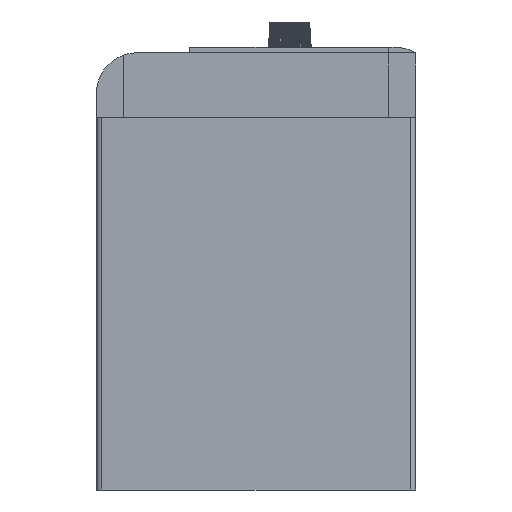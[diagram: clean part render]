
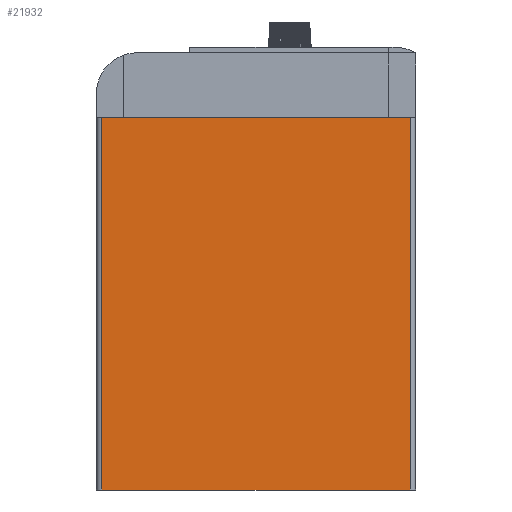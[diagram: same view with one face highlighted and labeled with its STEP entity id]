
A CAD part, front view. The second image highlights one B-rep face of the part: STEP entity #21932.
In plain terms, the highlighted planar face has unit normal (0, -1, 0).
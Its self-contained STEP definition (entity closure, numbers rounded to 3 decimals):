
#1081=PLANE('',#23194);
#1946=FACE_OUTER_BOUND('',#3189,.T.);
#3189=EDGE_LOOP('',(#15207,#15208,#15209,#15210));
#4555=LINE('',#29847,#6928);
#4556=LINE('',#29850,#6929);
#4557=LINE('',#29852,#6930);
#4558=LINE('',#29853,#6931);
#6928=VECTOR('',#24624,10.);
#6929=VECTOR('',#24627,10.);
#6930=VECTOR('',#24628,10.);
#6931=VECTOR('',#24629,10.);
#9673=VERTEX_POINT('',#29840);
#9676=VERTEX_POINT('',#29845);
#9677=VERTEX_POINT('',#29849);
#9678=VERTEX_POINT('',#29851);
#11893=EDGE_CURVE('',#9676,#9673,#4555,.T.);
#11894=EDGE_CURVE('',#9677,#9676,#4556,.T.);
#11895=EDGE_CURVE('',#9678,#9677,#4557,.T.);
#11896=EDGE_CURVE('',#9673,#9678,#4558,.T.);
#15207=ORIENTED_EDGE('',*,*,#11893,.F.);
#15208=ORIENTED_EDGE('',*,*,#11894,.F.);
#15209=ORIENTED_EDGE('',*,*,#11895,.F.);
#15210=ORIENTED_EDGE('',*,*,#11896,.F.);
#21932=ADVANCED_FACE('',(#1946),#1081,.T.);
#23194=AXIS2_PLACEMENT_3D('',#29848,#24625,#24626);
#24624=DIRECTION('',(0.,0.,-1.));
#24625=DIRECTION('center_axis',(0.,-1.,0.));
#24626=DIRECTION('ref_axis',(0.,0.,-1.));
#24627=DIRECTION('',(1.,0.,0.));
#24628=DIRECTION('',(0.,0.,1.));
#24629=DIRECTION('',(-1.,0.,0.));
#29840=CARTESIAN_POINT('',(57.,0.,0.));
#29845=CARTESIAN_POINT('',(57.,0.,137.6));
#29847=CARTESIAN_POINT('',(57.,0.,103.2));
#29848=CARTESIAN_POINT('Origin',(0.,0.,137.6));
#29849=CARTESIAN_POINT('',(-57.,0.,137.6));
#29850=CARTESIAN_POINT('',(0.,0.,137.6));
#29851=CARTESIAN_POINT('',(-57.,0.,0.));
#29852=CARTESIAN_POINT('',(-57.,0.,103.2));
#29853=CARTESIAN_POINT('',(0.,0.,0.));
